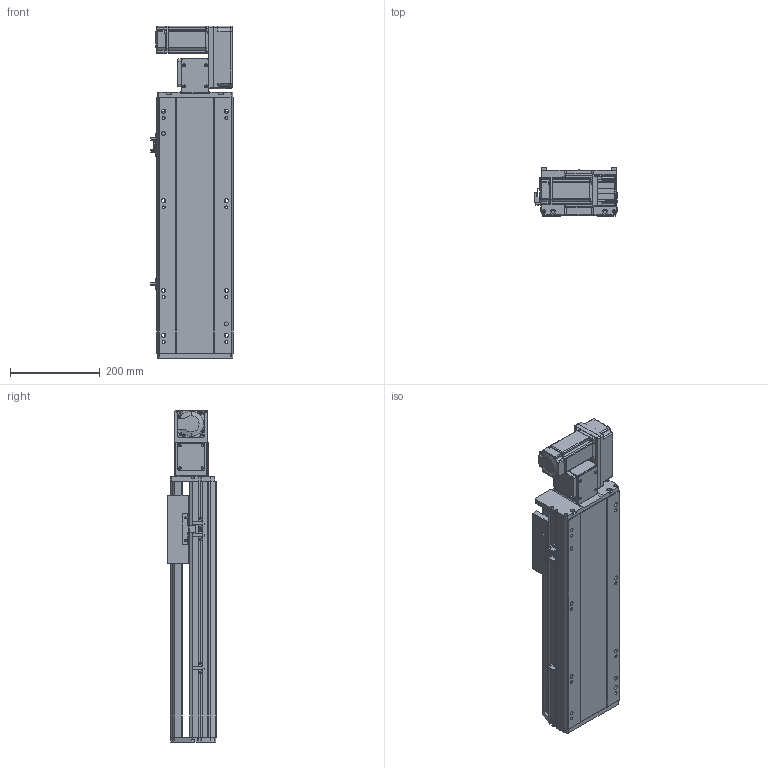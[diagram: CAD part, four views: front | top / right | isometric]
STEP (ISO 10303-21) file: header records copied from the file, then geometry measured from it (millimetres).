
FILE_DESCRIPTION (( 'STEP AP214' ), '1' );
FILE_NAME ('RTB17S-XX-300-R-M40-C4.STEP', '2025-12-11T07:32:41', ( '' ), ( '' ), 'SwSTEP 2.0', 'SolidWorks 2018', '' );
FILE_SCHEMA (( 'AUTOMOTIVE_DESIGN' ));
Length unit declared in the file: millimetre
Products named in the file (14): RTB17S-R-々湍釱蚾饜-400W^RTB17S-XX-XX-R-M40-C4; 400W侜督萇儂^RTB17S-XX-XX-R-M40-C4; RTB17S-L-004佪裝蹟譫蟀諉釱^RTB17S-XX-XX-R-M40-C4; OMRON EE-SX672 传感器^RTB17S-XX-XX-R-M40-C4; RTB14-L-018P^RTB17S-R-々湍釱蚾饜-400W_RTB17S-XX-XX-R-M40-C4; RTB17S-L-007奻裔^RTB17S-XX-XX-R-M40-C4; RTB14-L-017P^RTB17S-R-々湍釱蚾饜-400W_RTB17S-XX-XX-R-M40-C4; RTB14-L-008-M20--萇儂啣^RTB17S-R-々湍釱蚾饜-400W_RTB17S-XX-XX-R-M40-C4; RTB14-L-005P--轴承塑胶压盖^RTB17S-R-皮带座装配-400W_RTB17S-XX-XX-R-M40-C4; RTB17S-L-014-T20--々湍釱^RTB17S-R-々湍釱蚾饜-400W_RTB17S-XX-XX-R-M40-C4; RTB17S-L-001耜醱啣^RTB17S-XX-XX-R-M40-C4; RTB17-R-011菁釱^RTB17S-XX-XX-R-M40-C4; RTB17S-XX-300-R-M40-C4; RTH13-BL-012覜茼え俋离^RTB17S-XX-XX-R-M40-C4
Assembly tree (16 placements, depth 3):
  RTB17S-XX-300-R-M40-C4
    RTB17-R-011菁釱^RTB17S-XX-XX-R-M40-C4
    RTB17S-L-007奻裔^RTB17S-XX-XX-R-M40-C4
    OMRON EE-SX672 传感器^RTB17S-XX-XX-R-M40-C4  x3
    RTB17S-L-001耜醱啣^RTB17S-XX-XX-R-M40-C4
    400W侜督萇儂^RTB17S-XX-XX-R-M40-C4
    RTB17S-L-004佪裝蹟譫蟀諉釱^RTB17S-XX-XX-R-M40-C4
    RTH13-BL-012覜茼え俋离^RTB17S-XX-XX-R-M40-C4
    RTB17S-R-々湍釱蚾饜-400W^RTB17S-XX-XX-R-M40-C4
      RTB17S-L-014-T20--々湍釱^RTB17S-R-々湍釱蚾饜-400W_RTB17S-XX-XX-R-M40-C4
      RTB14-L-005P--轴承塑胶压盖^RTB17S-R-皮带座装配-400W_RTB17S-XX-XX-R-M40-C4
      RTB14-L-008-M20--萇儂啣^RTB17S-R-々湍釱蚾饜-400W_RTB17S-XX-XX-R-M40-C4
      RTB14-L-017P^RTB17S-R-々湍釱蚾饜-400W_RTB17S-XX-XX-R-M40-C4  x2
      RTB14-L-018P^RTB17S-R-々湍釱蚾饜-400W_RTB17S-XX-XX-R-M40-C4
Bounding box: 183.5 x 108 x 741 mm (x, y, z)
Volume: 6663312.5 mm3; surface area: 876460.2 mm2
Topology: 15 solids, 15 shells, 2157 faces, 5925 edges, 3861 vertices
Faces by surface type: plane 1062, cylinder 647, bspline 301, cone 139, torus 8
Entity records: 60329 total; most frequent: CARTESIAN_POINT 16730, ORIENTED_EDGE 8694, DIRECTION 8126, EDGE_CURVE 4347, VERTEX_POINT 2849, AXIS2_PLACEMENT_3D 2779, VECTOR 2568, LINE 2568
